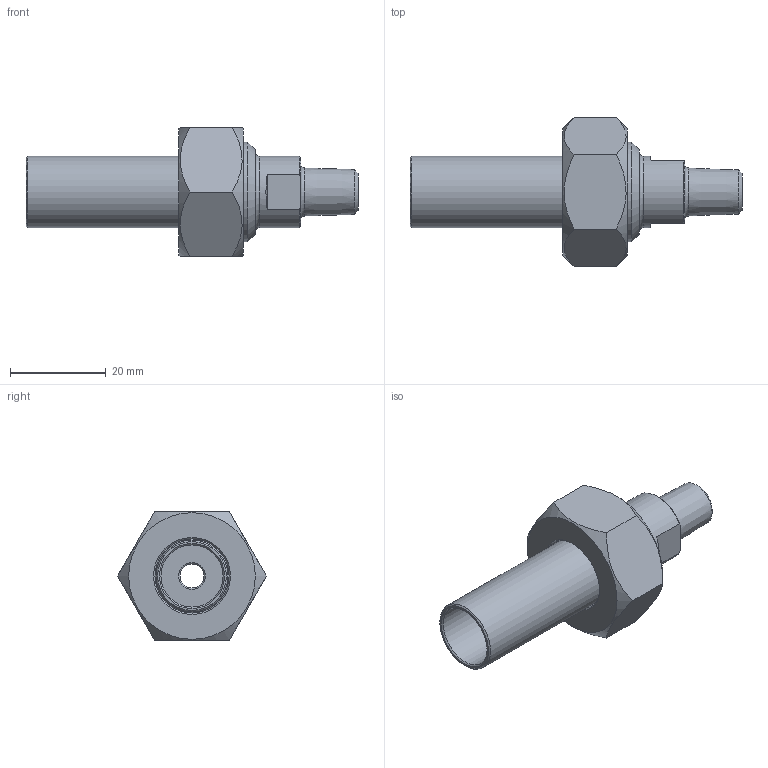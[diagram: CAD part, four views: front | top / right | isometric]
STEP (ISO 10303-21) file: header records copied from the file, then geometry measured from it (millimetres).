
FILE_DESCRIPTION(/* description */ (''),/* implementation_level */ '2;1');
FILE_NAME(/* name */ 'C:\Users\cad\Desktop\Zeichnungen neu von Ralph\Ganze Kupplungen\3D_Kupplung-R666-PE-UG\3D_R666-PE-UG-15-DN15-DN6_1711309514.stp',/* time_stamp */ '2021-07-16T10:27:15+02:00',/* author */ ('cad'),/* organization */ (''),/* preprocessor_version */ 'ST-DEVELOPER v18.1',/* originating_system */ 'Autodesk Inventor 2022',/* authorisation */ '');
FILE_SCHEMA (('AUTOMOTIVE_DESIGN { 1 0 10303 214 3 1 1 }'));
Length unit declared in the file: millimetre
Products named in the file (4): 3D_R666-PE-UG-15-DN15-DN6_1711309514; 3D_R666-M-DN15_17113910; 3D_R666-UG-DN6-DN15_17113600; 3D_R666-PE-15-DN15_17113460
Assembly tree (3 placements, depth 2):
  3D_R666-PE-UG-15-DN15-DN6_1711309514
    3D_R666-M-DN15_17113910
    3D_R666-UG-DN6-DN15_17113600
    3D_R666-PE-15-DN15_17113460
Bounding box: 69.5 x 31.18 x 27 mm (x, y, z)
Volume: 11749.4 mm3; surface area: 8608.5 mm2
Topology: 3 solids, 3 shells, 50 faces, 116 edges, 76 vertices
Faces by surface type: plane 20, cone 18, cylinder 8, torus 4
Full cylindrical faces by diameter (mm): 5 x1, 13 x1, 15 x2, 15.5 x1, 18 x1, 18.631 x1, 20.9 x1
Entity records: 1589 total; most frequent: CARTESIAN_POINT 281, DIRECTION 276, ORIENTED_EDGE 232, AXIS2_PLACEMENT_3D 119, EDGE_CURVE 116, VERTEX_POINT 76, EDGE_LOOP 60, CIRCLE 60
